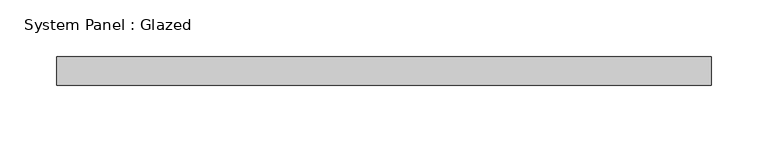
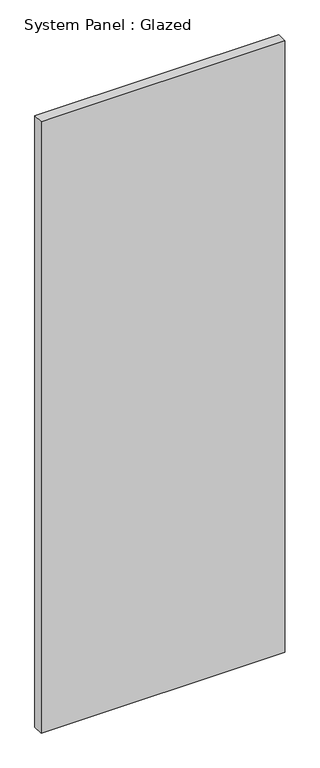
"""IFC4 building model written with IfcOpenShell, lengths in millimetres: plate geometry, System Panel : Glazed."""

from ifc_helpers import new_model, si_unit, origin, origin_with_axes, place, context, project, spatial, polyline, outline, extrude, source, transform, mapped, element, save


def system_panel_glazed_bb21d9a1(model_context):
    return source(origin(), model_context, "Body", "SweptSolid", [
        extrude(outline(polyline([(287.5, 24.5), (-287.5, 24.5), (-287.5, 49.5), (287.5, 49.5), (287.5, 24.5)])), origin_with_axes(), (0.0, 0.0, 1.0), 1525.0),
    ])


if __name__ == "__main__":
    model = new_model("IFC4")
    model_context = context("Model", 3, world=origin())
    ifc_project = project(units=[si_unit("LENGTHUNIT", "METRE", prefix="MILLI")], contexts=[model_context])
    site = spatial("IfcSite", under=ifc_project)
    building = spatial("IfcBuilding", under=site)
    placement = place(None, origin())
    system_panel_glazed_shape = system_panel_glazed_bb21d9a1(model_context)
    element("IfcPlate", 1, ObjectType="System Panel : Glazed", at=placement, inside=building, context=model_context, shape_type="MappedRepresentation", body=[
        mapped(system_panel_glazed_shape, transform((0.0, 0.0, 0.0), x_axis=(1.0, 0.0, 0.0), y_axis=(0.0, 1.0, 0.0), z_axis=(0.0, 0.0, 1.0))),
    ])
    save(model, "model.ifc")
